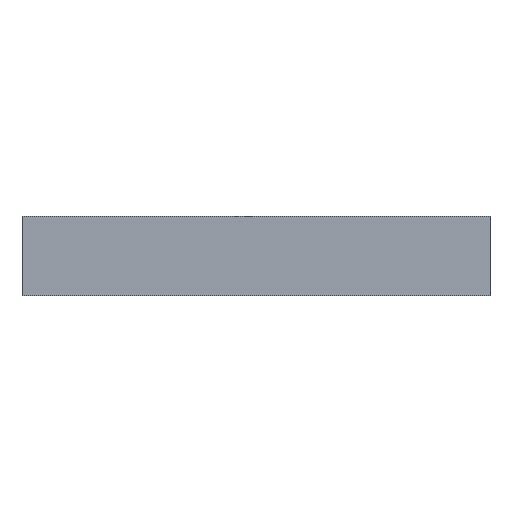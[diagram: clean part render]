
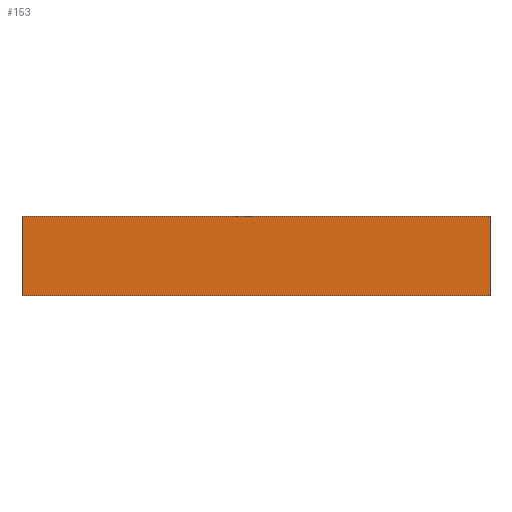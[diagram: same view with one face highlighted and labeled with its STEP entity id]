
A CAD part, top view. The second image highlights one B-rep face of the part: STEP entity #153.
In plain terms, the highlighted planar face has unit normal (0, 0, 1).
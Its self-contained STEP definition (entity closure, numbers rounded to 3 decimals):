
#24 = VERTEX_POINT('',#25);
#25 = CARTESIAN_POINT('',(-825.,-140.,20.));
#40 = VERTEX_POINT('',#41);
#41 = CARTESIAN_POINT('',(-825.,140.,20.));
#47 = EDGE_CURVE('',#24,#40,#48,.T.);
#48 = LINE('',#49,#50);
#49 = CARTESIAN_POINT('',(-825.,-140.,20.));
#50 = VECTOR('',#51,1.);
#51 = DIRECTION('',(0.,1.,0.));
#64 = VERTEX_POINT('',#65);
#65 = CARTESIAN_POINT('',(825.,-140.,20.));
#80 = VERTEX_POINT('',#81);
#81 = CARTESIAN_POINT('',(825.,140.,20.));
#87 = EDGE_CURVE('',#64,#80,#88,.T.);
#88 = LINE('',#89,#90);
#89 = CARTESIAN_POINT('',(825.,-140.,20.));
#90 = VECTOR('',#91,1.);
#91 = DIRECTION('',(0.,1.,0.));
#108 = EDGE_CURVE('',#24,#64,#109,.T.);
#109 = LINE('',#110,#111);
#110 = CARTESIAN_POINT('',(-825.,-140.,20.));
#111 = VECTOR('',#112,1.);
#112 = DIRECTION('',(1.,0.,0.));
#130 = EDGE_CURVE('',#40,#80,#131,.T.);
#131 = LINE('',#132,#133);
#132 = CARTESIAN_POINT('',(-825.,140.,20.));
#133 = VECTOR('',#134,1.);
#134 = DIRECTION('',(1.,0.,0.));
#153 = ADVANCED_FACE('',(#154),#160,.T.);
#154 = FACE_BOUND('',#155,.T.);
#155 = EDGE_LOOP('',(#156,#157,#158,#159));
#156 = ORIENTED_EDGE('',*,*,#47,.F.);
#157 = ORIENTED_EDGE('',*,*,#108,.T.);
#158 = ORIENTED_EDGE('',*,*,#87,.T.);
#159 = ORIENTED_EDGE('',*,*,#130,.F.);
#160 = PLANE('',#161);
#161 = AXIS2_PLACEMENT_3D('',#162,#163,#164);
#162 = CARTESIAN_POINT('',(-825.,-140.,20.));
#163 = DIRECTION('',(0.,0.,1.));
#164 = DIRECTION('',(1.,0.,0.));
